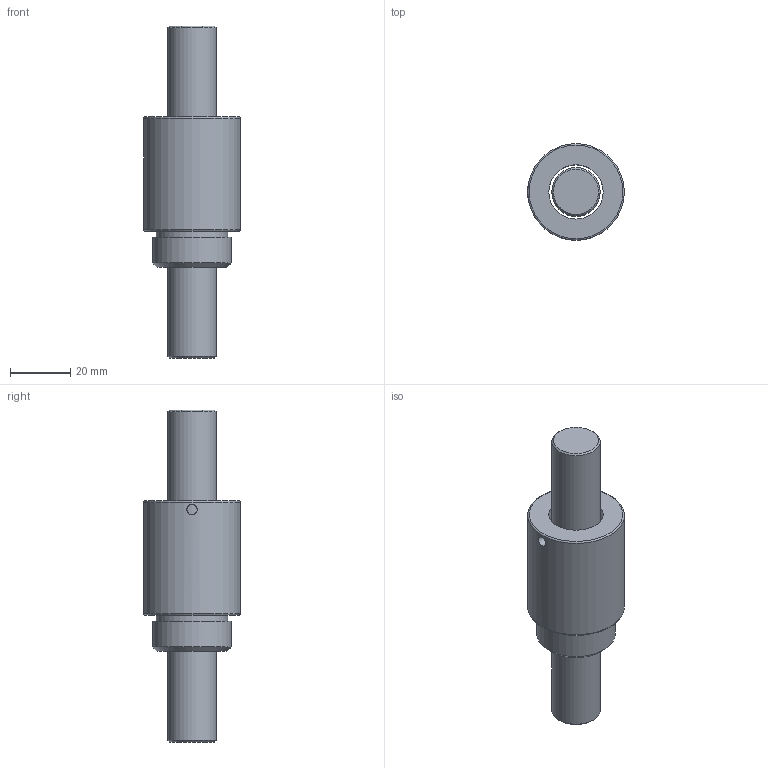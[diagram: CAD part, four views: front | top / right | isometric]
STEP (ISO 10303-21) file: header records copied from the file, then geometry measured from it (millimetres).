
FILE_DESCRIPTION(/* description */ (''),/* implementation_level */ '2;1');
FILE_NAME(/* name */ 'BSH1610-2.stp',/* time_stamp */ '2016-08-11T13:46:15+08:00',/* author */ (''),/* organization */ (''),/* preprocessor_version */ 'ST-DEVELOPER v11',/* originating_system */ 'SIEMENS UGS NX 6.0',/* authorisation */ '');
FILE_SCHEMA (('CONFIG_CONTROL_DESIGN'));
Length unit declared in the file: millimetre
Products named in the file (1): fannD4BFpzb3
Bounding box: 32 x 32 x 110 mm (x, y, z)
Volume: 45963.9 mm3; surface area: 14739.4 mm2
Topology: 2 solids, 2 shells, 17 faces, 29 edges, 18 vertices
Faces by surface type: cylinder 6, plane 6, cone 3, torus 2
Full cylindrical faces by diameter (mm): 3.4 x1, 16 x1, 18 x1, 23.6 x1, 26 x1, 32 x1
Entity records: 548 total; most frequent: CARTESIAN_POINT 167, DIRECTION 68, EDGE_LOOP 34, ORIENTED_EDGE 34, AXIS2_PLACEMENT_3D 34, FACE_BOUND 32, ADVANCED_FACE 17, VERTEX_POINT 17
